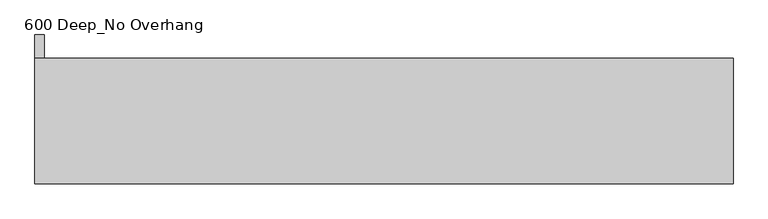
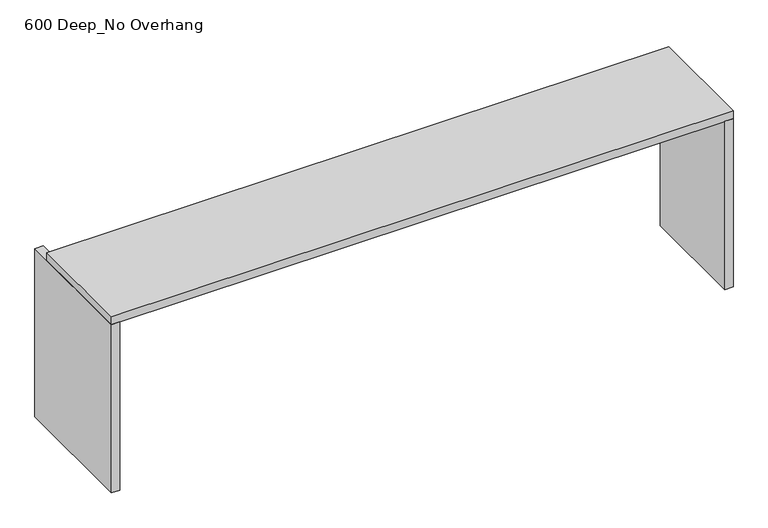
"""IFC4 building model written with IfcOpenShell, lengths in millimetres: furniture geometry, Benchtop_Optional Hole_I Shaped_CAS : 600 Deep_No Overhang."""

from ifc_helpers import new_model, si_unit, frame, origin, origin_with_axes, place, context, project, spatial, polyline, outline, extrude, source, transform, mapped, element, save


def furniture_600_deep_no_overhang_729532a6(model_context):
    return source(origin(), model_context, "Body", "SweptSolid", [
        extrude(outline(polyline([(1809.7003264, -540.0), (1809.7003264, 0.0), (1849.7003264, 0.0), (1849.7003264, -540.0), (1809.7003264, -540.0)])), origin_with_axes(), (0.0, 0.0, 1.0), 860.0),
        extrude(outline(polyline([(-1115.2996736, 100.0), (-1115.2996736, -540.0), (-1155.2996736, -540.0), (-1155.2996736, 100.0), (-1115.2996736, 100.0)])), origin_with_axes(), (0.0, 0.0, 1.0), 860.0),
        extrude(outline(polyline([(1849.7003264, 0.0), (1849.7003264, -540.0), (-1155.2996736, -540.0), (-1155.2996736, 0.0), (1849.7003264, 0.0)])), frame((0.0, 0.0, 860.0), z_axis=(0.0, 0.0, 1.0), x_axis=(1.0, 0.0, 0.0)), (0.0, 0.0, 1.0), 40.0),
    ])


if __name__ == "__main__":
    model = new_model("IFC4")
    model_context = context("Model", 3, world=origin())
    ifc_project = project(units=[si_unit("LENGTHUNIT", "METRE", prefix="MILLI")], contexts=[model_context])
    site = spatial("IfcSite", under=ifc_project)
    building = spatial("IfcBuilding", under=site)
    placement = place(None, origin())
    furniture_600_deep_no_overhang_shape = furniture_600_deep_no_overhang_729532a6(model_context)
    element("IfcFurniture", 1, ObjectType="Benchtop_Optional Hole_I Shaped_CAS : 600 Deep_No Overhang", at=placement, inside=building, context=model_context, shape_type="MappedRepresentation", body=[
        mapped(furniture_600_deep_no_overhang_shape, transform((0.0, 0.0, 0.0), x_axis=(1.0, 0.0, 0.0), y_axis=(0.0, 1.0, 0.0), z_axis=(0.0, 0.0, 1.0))),
    ])
    save(model, "model.ifc")
